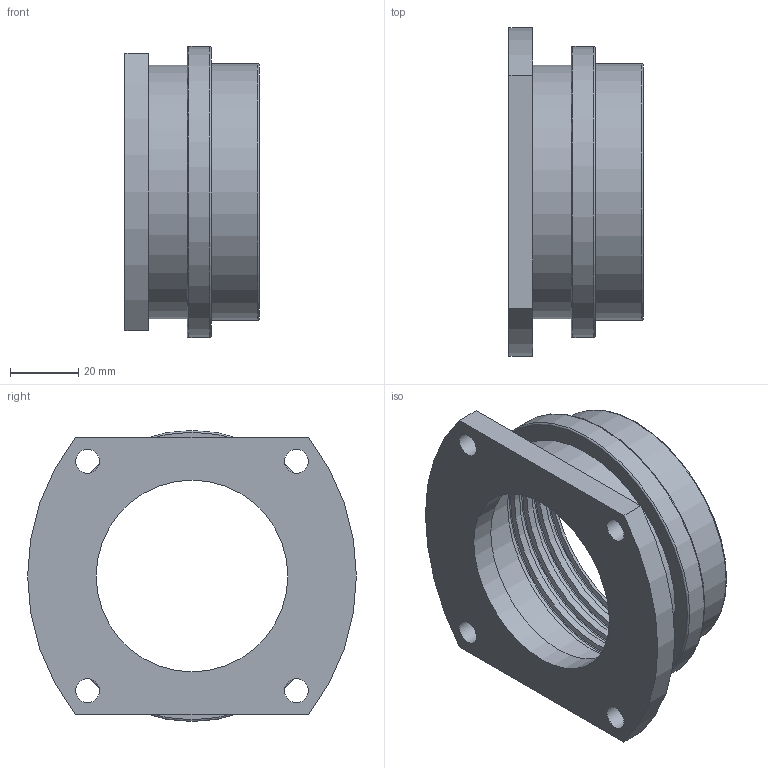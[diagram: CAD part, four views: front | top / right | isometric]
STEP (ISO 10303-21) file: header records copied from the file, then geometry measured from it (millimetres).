
FILE_DESCRIPTION( ( 'STEP AP214' ), '1' );
FILE_NAME( 'e:/temp/worker_24/temp/exporttempdir_5012_301_6GOdT/format_0/TNOC_IP65-G56B.stp', '2021-04-13T14:52:43', ( 'License CC BY-ND 4.0' ), ( 'CADENAS' ), ' ', 'PARTsolutions', ' ' );
FILE_SCHEMA( ( 'AUTOMOTIVE_DESIGN { 1 0 10303 214 1 1 1 1 }' ) );
Length unit declared in the file: millimetre
Products named in the file (1): _TNOC_IP65-G56B
Bounding box: 39.2 x 96 x 85 mm (x, y, z)
Volume: 57101.7 mm3; surface area: 32242 mm2
Topology: 1 solids, 1 shells, 46 faces, 100 edges, 60 vertices
Faces by surface type: cylinder 19, torus 11, cone 8, plane 8
Full cylindrical faces by diameter (mm): 7 x4, 56 x1, 69 x5, 72 x4, 74 x1, 75 x1, 85 x1
Entity records: 1414 total; most frequent: DIRECTION 200, CARTESIAN_POINT 157, ORIENTED_EDGE 114, AXIS2_PLACEMENT_3D 96, EDGE_LOOP 96, FACE_OUTER_BOUND 74, EDGE_CURVE 57, VERTEX_POINT 53
